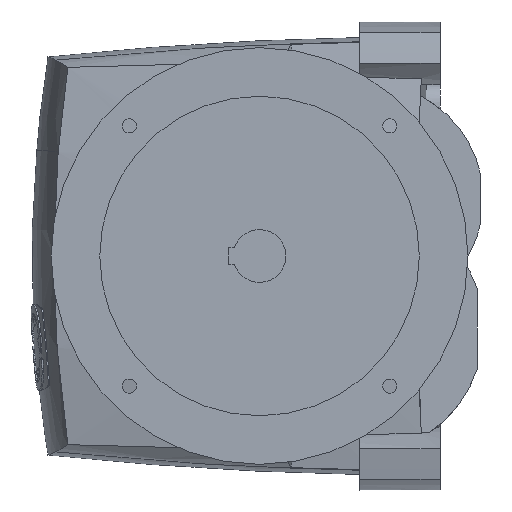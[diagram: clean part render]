
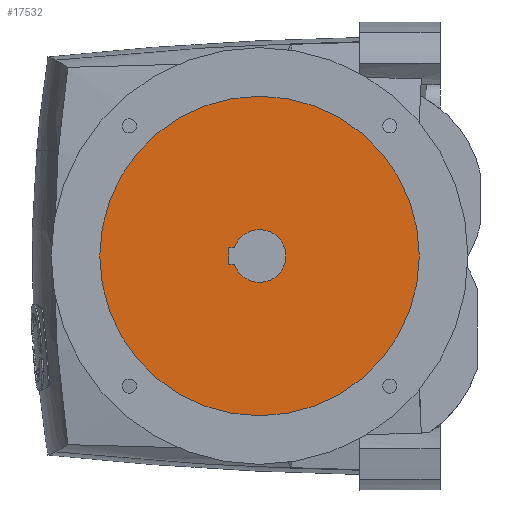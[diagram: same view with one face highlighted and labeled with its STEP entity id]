
A CAD part, left-side view. The second image highlights one B-rep face of the part: STEP entity #17532.
In plain terms, the highlighted planar face has unit normal (-1, 0, 0).
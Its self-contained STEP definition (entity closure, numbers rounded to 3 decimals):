
#5588=CARTESIAN_POINT('',(-232.,162.,0.));
#5589=DIRECTION('',(-1.,0.,0.));
#5590=DIRECTION('',(0.,0.,-1.));
#5591=AXIS2_PLACEMENT_3D('',#5588,#5589,#5590);
#5593=CARTESIAN_POINT('',(-232.,162.,0.));
#5594=DIRECTION('',(-1.,0.,0.));
#5595=DIRECTION('',(0.,0.,1.));
#5596=AXIS2_PLACEMENT_3D('',#5593,#5594,#5595);
#5598=DIRECTION('',(0.,1.,0.));
#5599=VECTOR('',#5598,4.272);
#5600=CARTESIAN_POINT('',(-232.,180.028,6.));
#5601=LINE('',#5600,#5599);
#5602=DIRECTION('',(0.,0.,-1.));
#5603=VECTOR('',#5602,12.);
#5604=CARTESIAN_POINT('',(-232.,184.3,6.));
#5605=LINE('',#5604,#5603);
#5606=DIRECTION('',(0.,-1.,0.));
#5607=VECTOR('',#5606,4.272);
#5608=CARTESIAN_POINT('',(-232.,184.3,-6.));
#5609=LINE('',#5608,#5607);
#5610=CARTESIAN_POINT('',(-232.,162.,0.));
#5611=DIRECTION('',(-1.,0.,0.));
#5612=DIRECTION('',(0.,0.949,-0.316));
#5613=AXIS2_PLACEMENT_3D('',#5610,#5611,#5612);
#7258=CARTESIAN_POINT('',(-232.,162.,-115.));
#7259=CARTESIAN_POINT('',(-232.,162.,115.));
#7260=VERTEX_POINT('',#7258);
#7261=VERTEX_POINT('',#7259);
#7274=CARTESIAN_POINT('',(-232.,180.028,6.));
#7275=CARTESIAN_POINT('',(-232.,184.3,6.));
#7276=VERTEX_POINT('',#7274);
#7277=VERTEX_POINT('',#7275);
#7278=CARTESIAN_POINT('',(-232.,184.3,-6.));
#7279=VERTEX_POINT('',#7278);
#7280=CARTESIAN_POINT('',(-232.,180.028,-6.));
#7281=VERTEX_POINT('',#7280);
#17513=CARTESIAN_POINT('',(-232.,32.,0.));
#17514=DIRECTION('',(-1.,0.,0.));
#17515=DIRECTION('',(0.,0.,-1.));
#17516=AXIS2_PLACEMENT_3D('',#17513,#17514,#17515);
#17517=PLANE('',#17516);
#17518=ORIENTED_EDGE('',*,*,#17493,.F.);
#17519=ORIENTED_EDGE('',*,*,#17507,.F.);
#17520=EDGE_LOOP('',(#17518,#17519));
#17521=FACE_OUTER_BOUND('',#17520,.F.);
#17523=ORIENTED_EDGE('',*,*,#17522,.T.);
#17525=ORIENTED_EDGE('',*,*,#17524,.T.);
#17527=ORIENTED_EDGE('',*,*,#17526,.T.);
#17529=ORIENTED_EDGE('',*,*,#17528,.T.);
#17530=EDGE_LOOP('',(#17523,#17525,#17527,#17529));
#17531=FACE_BOUND('',#17530,.F.);
#17532=ADVANCED_FACE('',(#17521,#17531),#17517,.T.);
#5592=CIRCLE('',#5591,115.);
#5597=CIRCLE('',#5596,115.);
#5614=CIRCLE('',#5613,19.);
#17493=EDGE_CURVE('',#7260,#7261,#5592,.T.);
#17507=EDGE_CURVE('',#7261,#7260,#5597,.T.);
#17522=EDGE_CURVE('',#7276,#7277,#5601,.T.);
#17524=EDGE_CURVE('',#7277,#7279,#5605,.T.);
#17526=EDGE_CURVE('',#7279,#7281,#5609,.T.);
#17528=EDGE_CURVE('',#7281,#7276,#5614,.T.);
